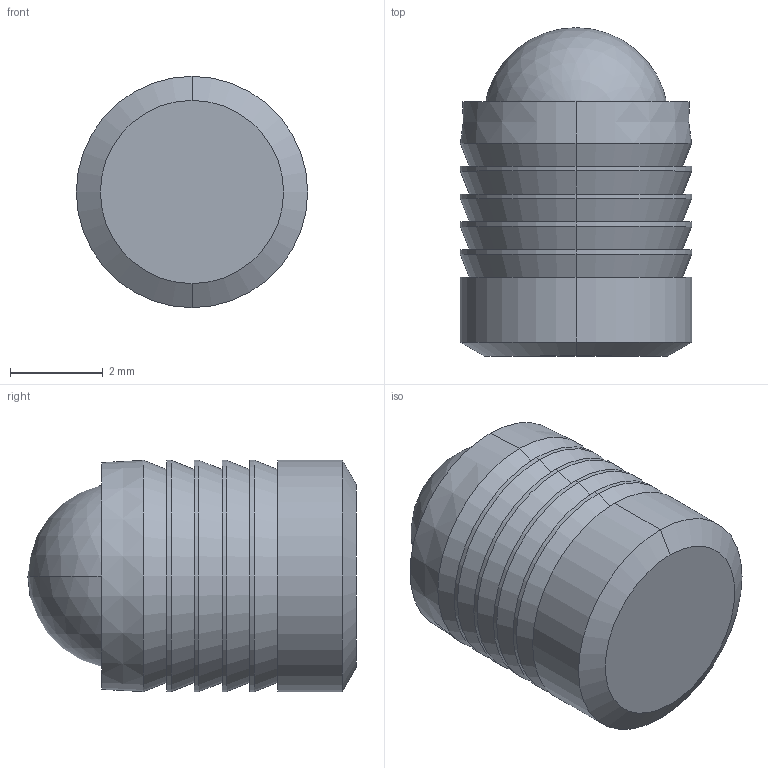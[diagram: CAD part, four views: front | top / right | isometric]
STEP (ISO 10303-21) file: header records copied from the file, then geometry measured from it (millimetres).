
FILE_DESCRIPTION (( 'STEP AP203' ), '1' );
FILE_NAME ('HCS050.STEP', '2022-09-01T04:21:47', ( '' ), ( '' ), 'SwSTEP 2.0', 'SolidWorks 2013', '' );
FILE_SCHEMA (( 'CONFIG_CONTROL_DESIGN' ));
Length unit declared in the file: millimetre
Products named in the file (1): HCS050
Bounding box: 5 x 7.1 x 5 mm (x, y, z)
Volume: 95.8 mm3; surface area: 229.1 mm2
Topology: 2 solids, 2 shells, 41 faces, 85 edges, 50 vertices
Faces by surface type: cone 18, cylinder 14, plane 7, sphere 2
Entity records: 1113 total; most frequent: DIRECTION 208, CARTESIAN_POINT 167, ORIENTED_EDGE 156, AXIS2_PLACEMENT_3D 88, EDGE_CURVE 78, EDGE_LOOP 47, VERTEX_POINT 47, CIRCLE 46
